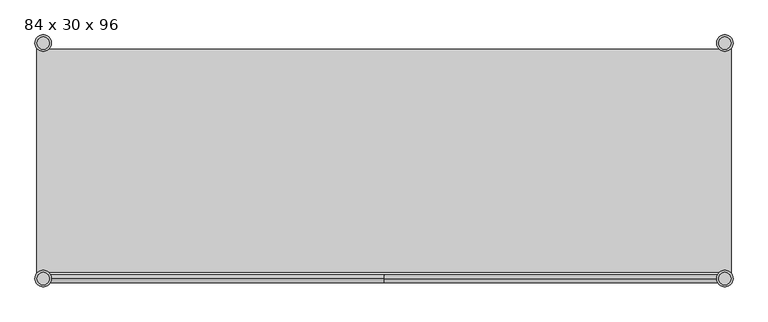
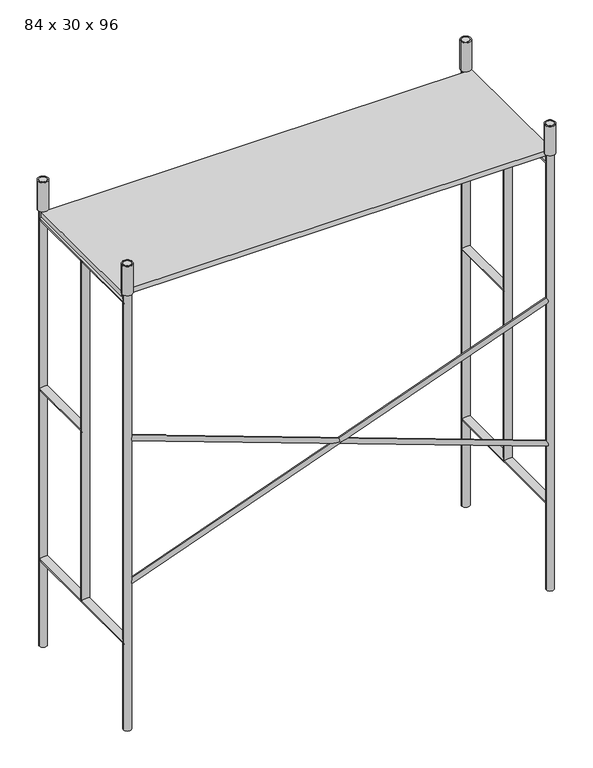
"""IFC4 building model written with IfcOpenShell, lengths in millimetres: geographic element geometry, Scaffolding : 84 x 30 x 96."""

from ifc_helpers import new_model, si_unit, point, frame, frame_2d, origin, origin_with_axes, place, context, project, spatial, polyline, circle_curve, trimmed, segment, composite_curve, outline, extrude, source, transform, mapped, element, save


def geographic_element_84_x_30_x_96_7b94d2d3(model_context):
    return source(origin(), model_context, "Body", "SweptSolid", [
        extrude(outline(composite_curve([segment(trimmed(circle_curve(frame_2d((1047.75, -361.95)), 19.05), [point((1028.7, -361.95))], [point((1066.8, -361.95))], False, "CARTESIAN"), True, "CONTINUOUS"), segment(trimmed(circle_curve(frame_2d((1047.75, -361.95)), 19.05), [point((1066.8, -361.95))], [point((1028.7, -361.95))], False, "CARTESIAN"), True, "CONTINUOUS")], self_intersect=False)), origin_with_axes(), (0.0, 0.0, 1.0), 2438.4),
        extrude(outline(composite_curve([segment(trimmed(circle_curve(frame_2d((1047.75, 361.95)), 19.05), [point((1028.7, 361.95))], [point((1066.8, 361.95))], False, "CARTESIAN"), True, "CONTINUOUS"), segment(trimmed(circle_curve(frame_2d((1047.75, 361.95)), 19.05), [point((1066.8, 361.95))], [point((1028.7, 361.95))], False, "CARTESIAN"), True, "CONTINUOUS")], self_intersect=False)), origin_with_axes(), (0.0, 0.0, 1.0), 2438.4),
        extrude(outline(composite_curve([segment(trimmed(circle_curve(frame_2d((-1047.75, -361.95)), 19.05), [point((-1066.8, -361.95))], [point((-1028.7, -361.95))], False, "CARTESIAN"), True, "CONTINUOUS"), segment(trimmed(circle_curve(frame_2d((-1047.75, -361.95)), 19.05), [point((-1028.7, -361.95))], [point((-1066.8, -361.95))], False, "CARTESIAN"), True, "CONTINUOUS")], self_intersect=False)), origin_with_axes(), (0.0, 0.0, 1.0), 2438.4),
        extrude(outline(composite_curve([segment(trimmed(circle_curve(frame_2d((-1047.75, 361.95)), 19.05), [point((-1066.8, 361.95))], [point((-1028.7, 361.95))], False, "CARTESIAN"), True, "CONTINUOUS"), segment(trimmed(circle_curve(frame_2d((-1047.75, 361.95)), 19.05), [point((-1028.7, 361.95))], [point((-1066.8, 361.95))], False, "CARTESIAN"), True, "CONTINUOUS")], self_intersect=False)), origin_with_axes(), (0.0, 0.0, 1.0), 2438.4),
        extrude(outline(composite_curve([segment(trimmed(circle_curve(frame_2d((1047.75, 0.0)), 19.05), [point((1028.7, 0.0))], [point((1066.8, 0.0))], False, "CARTESIAN"), True, "CONTINUOUS"), segment(trimmed(circle_curve(frame_2d((1047.75, 0.0)), 19.05), [point((1066.8, 0.0))], [point((1028.7, 0.0))], False, "CARTESIAN"), True, "CONTINUOUS")], self_intersect=False)), frame((0.0, 0.0, 457.2), z_axis=(0.0, 0.0, 1.0), x_axis=(1.0, 0.0, 0.0)), (0.0, 0.0, 1.0), 1784.35),
        extrude(outline(composite_curve([segment(trimmed(circle_curve(frame_2d((457.2, 1047.75)), 19.05), [point((457.2, 1028.7))], [point((457.2, 1066.8))], False, "CARTESIAN"), True, "CONTINUOUS"), segment(trimmed(circle_curve(frame_2d((457.2, 1047.75)), 19.05), [point((457.2, 1066.8))], [point((457.2, 1028.7))], False, "CARTESIAN"), True, "CONTINUOUS")], self_intersect=False)), frame((0.0, -361.95, 0.0), z_axis=(0.0, 1.0, 0.0), x_axis=(0.0, 0.0, 1.0)), (0.0, 0.0, 1.0), 723.9),
        extrude(outline(composite_curve([segment(trimmed(circle_curve(frame_2d((2241.55, 1047.75)), 19.05), [point((2241.55, 1028.7))], [point((2241.55, 1066.8))], False, "CARTESIAN"), True, "CONTINUOUS"), segment(trimmed(circle_curve(frame_2d((2241.55, 1047.75)), 19.05), [point((2241.55, 1066.8))], [point((2241.55, 1028.7))], False, "CARTESIAN"), True, "CONTINUOUS")], self_intersect=False)), frame((0.0, -361.95, 0.0), z_axis=(0.0, 1.0, 0.0), x_axis=(0.0, 0.0, 1.0)), (0.0, 0.0, 1.0), 723.9),
        extrude(outline(composite_curve([segment(trimmed(circle_curve(frame_2d((-1047.75, 0.0)), 19.05), [point((-1066.8, 0.0))], [point((-1028.7, 0.0))], False, "CARTESIAN"), True, "CONTINUOUS"), segment(trimmed(circle_curve(frame_2d((-1047.75, 0.0)), 19.05), [point((-1028.7, 0.0))], [point((-1066.8, 0.0))], False, "CARTESIAN"), True, "CONTINUOUS")], self_intersect=False)), frame((0.0, 0.0, 457.2), z_axis=(0.0, 0.0, 1.0), x_axis=(1.0, 0.0, 0.0)), (0.0, 0.0, 1.0), 1784.35),
        extrude(outline(composite_curve([segment(trimmed(circle_curve(frame_2d((457.2, -1047.75)), 19.05), [point((457.2, -1066.8))], [point((457.2, -1028.7))], False, "CARTESIAN"), True, "CONTINUOUS"), segment(trimmed(circle_curve(frame_2d((457.2, -1047.75)), 19.05), [point((457.2, -1028.7))], [point((457.2, -1066.8))], False, "CARTESIAN"), True, "CONTINUOUS")], self_intersect=False)), frame((0.0, -361.95, 0.0), z_axis=(0.0, 1.0, 0.0), x_axis=(0.0, 0.0, 1.0)), (0.0, 0.0, 1.0), 723.9),
        extrude(outline(composite_curve([segment(trimmed(circle_curve(frame_2d((2241.55, -1047.75)), 19.05), [point((2241.55, -1066.8))], [point((2241.55, -1028.7))], False, "CARTESIAN"), True, "CONTINUOUS"), segment(trimmed(circle_curve(frame_2d((2241.55, -1047.75)), 19.05), [point((2241.55, -1028.7))], [point((2241.55, -1066.8))], False, "CARTESIAN"), True, "CONTINUOUS")], self_intersect=False)), frame((0.0, -361.95, 0.0), z_axis=(0.0, 1.0, 0.0), x_axis=(0.0, 0.0, 1.0)), (0.0, 0.0, 1.0), 723.9),
        extrude(outline(polyline([(1066.8, 342.9), (1066.8, -342.9), (-1066.8, -342.9), (-1066.8, 342.9), (1066.8, 342.9)])), frame((0.0, 0.0, 2260.6), z_axis=(0.0, 0.0, 1.0), x_axis=(1.0, 0.0, 0.0)), (0.0, 0.0, 1.0), 25.4),
        extrude(outline(composite_curve([segment(trimmed(circle_curve(frame_2d((1349.375, 1047.75)), 19.05), [point((1349.375, 1028.7))], [point((1349.375, 1066.8))], False, "CARTESIAN"), True, "CONTINUOUS"), segment(trimmed(circle_curve(frame_2d((1349.375, 1047.75)), 19.05), [point((1349.375, 1066.8))], [point((1349.375, 1028.7))], False, "CARTESIAN"), True, "CONTINUOUS")], self_intersect=False)), frame((0.0, 0.0, 0.0), z_axis=(0.0, 1.0, 0.0), x_axis=(0.0, 0.0, 1.0)), (0.0, 0.0, 1.0), 361.95),
        extrude(outline(composite_curve([segment(trimmed(circle_curve(frame_2d((1349.375, -1047.75)), 19.05), [point((1349.375, -1066.8))], [point((1349.375, -1028.7))], False, "CARTESIAN"), True, "CONTINUOUS"), segment(trimmed(circle_curve(frame_2d((1349.375, -1047.75)), 19.05), [point((1349.375, -1028.7))], [point((1349.375, -1066.8))], False, "CARTESIAN"), True, "CONTINUOUS")], self_intersect=False)), frame((0.0, 0.0, 0.0), z_axis=(0.0, 1.0, 0.0), x_axis=(0.0, 0.0, 1.0)), (0.0, 0.0, 1.0), 361.95),
        extrude(outline(composite_curve([segment(trimmed(circle_curve(frame_2d((0.0, 12.7)), 12.7), [point((-12.7, 12.7))], [point((12.7, 12.7))], False, "CARTESIAN"), True, "CONTINUOUS"), segment(trimmed(circle_curve(frame_2d((0.0, 12.7)), 12.7), [point((12.7, 12.7))], [point((-12.7, 12.7))], False, "CARTESIAN"), True, "CONTINUOUS")], self_intersect=False)), frame((-1047.75, -374.65, 762.0), z_axis=(0.9397934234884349, 0.0, 0.34174306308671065), x_axis=(0.34174306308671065, 0.0, -0.9397934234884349)), (0.0, 0.0, 1.0), 2229.745333),
        extrude(outline(composite_curve([segment(trimmed(circle_curve(frame_2d((0.0, -12.7)), 12.7), [point((12.7, -12.7))], [point((-12.7, -12.7))], False, "CARTESIAN"), True, "CONTINUOUS"), segment(trimmed(circle_curve(frame_2d((0.0, -12.7)), 12.7), [point((-12.7, -12.7))], [point((12.7, -12.7))], False, "CARTESIAN"), True, "CONTINUOUS")], self_intersect=False)), frame((1047.75, -349.25, 762.0), z_axis=(-0.9397934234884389, 0.0, 0.34174306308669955), x_axis=(0.34174306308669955, 0.0, 0.9397934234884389)), (0.0, 0.0, 1.0), 2229.745333),
        extrude(outline(composite_curve([segment(trimmed(circle_curve(frame_2d((1047.75, -361.95)), 25.4), [point((1022.35, -361.95))], [point((1073.15, -361.95))], False, "CARTESIAN"), True, "CONTINUOUS"), segment(trimmed(circle_curve(frame_2d((1047.75, -361.95)), 25.4), [point((1073.15, -361.95))], [point((1022.35, -361.95))], False, "CARTESIAN"), True, "CONTINUOUS")], self_intersect=False), holes=[composite_curve([segment(trimmed(circle_curve(frame_2d((1047.75, -361.95)), 19.05), [point((1028.7, -361.95))], [point((1066.8, -361.95))], True, "CARTESIAN"), True, "CONTINUOUS"), segment(trimmed(circle_curve(frame_2d((1047.75, -361.95)), 19.05), [point((1066.8, -361.95))], [point((1028.7, -361.95))], True, "CARTESIAN"), True, "CONTINUOUS")], self_intersect=False)]), frame((0.0, 0.0, 2286.0), z_axis=(0.0, 0.0, 1.0), x_axis=(1.0, 0.0, 0.0)), (0.0, 0.0, 1.0), 152.4),
        extrude(outline(composite_curve([segment(trimmed(circle_curve(frame_2d((1047.75, 361.95)), 25.4), [point((1022.35, 361.95))], [point((1073.15, 361.95))], False, "CARTESIAN"), True, "CONTINUOUS"), segment(trimmed(circle_curve(frame_2d((1047.75, 361.95)), 25.4), [point((1073.15, 361.95))], [point((1022.35, 361.95))], False, "CARTESIAN"), True, "CONTINUOUS")], self_intersect=False), holes=[composite_curve([segment(trimmed(circle_curve(frame_2d((1047.75, 361.95)), 19.05), [point((1028.7, 361.95))], [point((1066.8, 361.95))], True, "CARTESIAN"), True, "CONTINUOUS"), segment(trimmed(circle_curve(frame_2d((1047.75, 361.95)), 19.05), [point((1066.8, 361.95))], [point((1028.7, 361.95))], True, "CARTESIAN"), True, "CONTINUOUS")], self_intersect=False)]), frame((0.0, 0.0, 2286.0), z_axis=(0.0, 0.0, 1.0), x_axis=(1.0, 0.0, 0.0)), (0.0, 0.0, 1.0), 152.4),
        extrude(outline(composite_curve([segment(trimmed(circle_curve(frame_2d((-1047.75, 361.95)), 25.4), [point((-1073.15, 361.95))], [point((-1022.35, 361.95))], False, "CARTESIAN"), True, "CONTINUOUS"), segment(trimmed(circle_curve(frame_2d((-1047.75, 361.95)), 25.4), [point((-1022.35, 361.95))], [point((-1073.15, 361.95))], False, "CARTESIAN"), True, "CONTINUOUS")], self_intersect=False), holes=[composite_curve([segment(trimmed(circle_curve(frame_2d((-1047.75, 361.95)), 19.05), [point((-1066.8, 361.95))], [point((-1028.7, 361.95))], True, "CARTESIAN"), True, "CONTINUOUS"), segment(trimmed(circle_curve(frame_2d((-1047.75, 361.95)), 19.05), [point((-1028.7, 361.95))], [point((-1066.8, 361.95))], True, "CARTESIAN"), True, "CONTINUOUS")], self_intersect=False)]), frame((0.0, 0.0, 2286.0), z_axis=(0.0, 0.0, 1.0), x_axis=(1.0, 0.0, 0.0)), (0.0, 0.0, 1.0), 152.4),
        extrude(outline(composite_curve([segment(trimmed(circle_curve(frame_2d((-1047.75, -361.95)), 25.4), [point((-1073.15, -361.95))], [point((-1022.35, -361.95))], False, "CARTESIAN"), True, "CONTINUOUS"), segment(trimmed(circle_curve(frame_2d((-1047.75, -361.95)), 25.4), [point((-1022.35, -361.95))], [point((-1073.15, -361.95))], False, "CARTESIAN"), True, "CONTINUOUS")], self_intersect=False), holes=[composite_curve([segment(trimmed(circle_curve(frame_2d((-1047.75, -361.95)), 19.05), [point((-1066.8, -361.95))], [point((-1028.7, -361.95))], True, "CARTESIAN"), True, "CONTINUOUS"), segment(trimmed(circle_curve(frame_2d((-1047.75, -361.95)), 19.05), [point((-1028.7, -361.95))], [point((-1066.8, -361.95))], True, "CARTESIAN"), True, "CONTINUOUS")], self_intersect=False)]), frame((0.0, 0.0, 2286.0), z_axis=(0.0, 0.0, 1.0), x_axis=(1.0, 0.0, 0.0)), (0.0, 0.0, 1.0), 152.4),
    ])


if __name__ == "__main__":
    model = new_model("IFC4")
    model_context = context("Model", 3, world=origin())
    ifc_project = project(units=[si_unit("LENGTHUNIT", "METRE", prefix="MILLI")], contexts=[model_context])
    site = spatial("IfcSite", under=ifc_project)
    building = spatial("IfcBuilding", under=site)
    placement = place(None, origin())
    geographic_element_84_x_30_x_96_shape = geographic_element_84_x_30_x_96_7b94d2d3(model_context)
    element("IfcGeographicElement", 1, ObjectType="Scaffolding : 84 x 30 x 96", at=placement, inside=building, context=model_context, shape_type="MappedRepresentation", body=[
        mapped(geographic_element_84_x_30_x_96_shape, transform((0.0, 0.0, 0.0), x_axis=(1.0, 0.0, 0.0), y_axis=(0.0, 1.0, 0.0), z_axis=(0.0, 0.0, 1.0))),
    ])
    save(model, "model.ifc")
